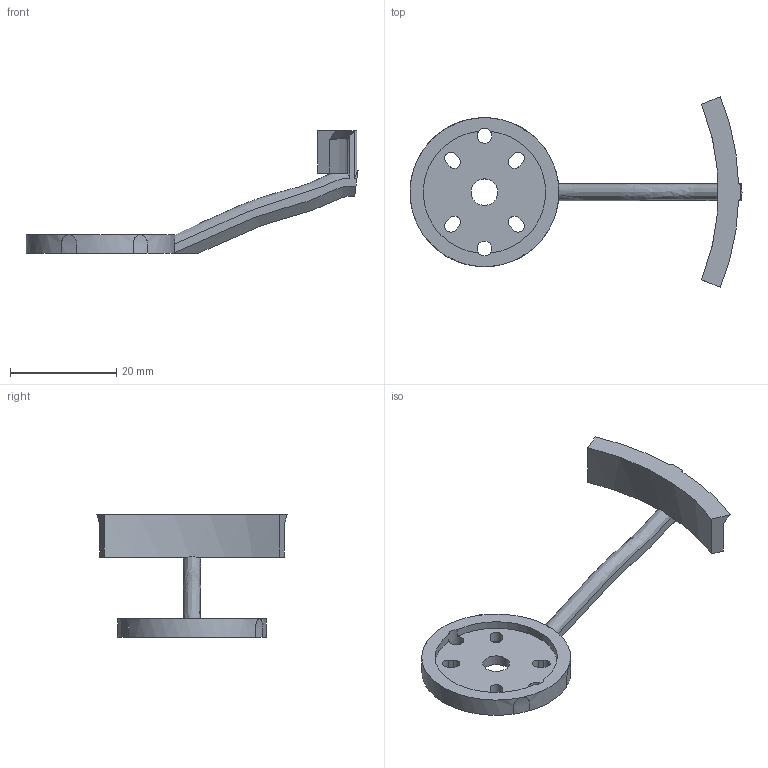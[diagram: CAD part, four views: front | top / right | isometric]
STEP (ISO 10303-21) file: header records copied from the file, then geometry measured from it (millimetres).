
FILE_DESCRIPTION(('Open CASCADE Model'),'2;1');
FILE_NAME('Open CASCADE Shape Model','2026-10-11T20:54:00',('Author'),( 'Open CASCADE'),'Open CASCADE STEP processor 7.8','Open CASCADE 7.8' ,'Unknown');
FILE_SCHEMA(('AUTOMOTIVE_DESIGN { 1 0 10303 214 1 1 1 1 }'));
Length unit declared in the file: millimetre
Products named in the file (1): Open CASCADE STEP translator 7.8 4
Bounding box: 62.4 x 35.81 x 23.1 mm (x, y, z)
Volume: 2588.9 mm3; surface area: 2997.2 mm2
Topology: 1 solids, 1 shells, 77 faces, 228 edges, 152 vertices
Faces by surface type: cylinder 29, plane 27, bspline 19, cone 2
Full cylindrical faces by diameter (mm): 2.8 x2, 5 x1
Entity records: 16389 total; most frequent: CARTESIAN_POINT 12542, DIRECTION 503, ORIENTED_EDGE 456, PCURVE 456, DEFINITIONAL_REPRESENTATION 456, B_SPLINE_CURVE_WITH_KNOTS 315, LINE 230, VECTOR 230
